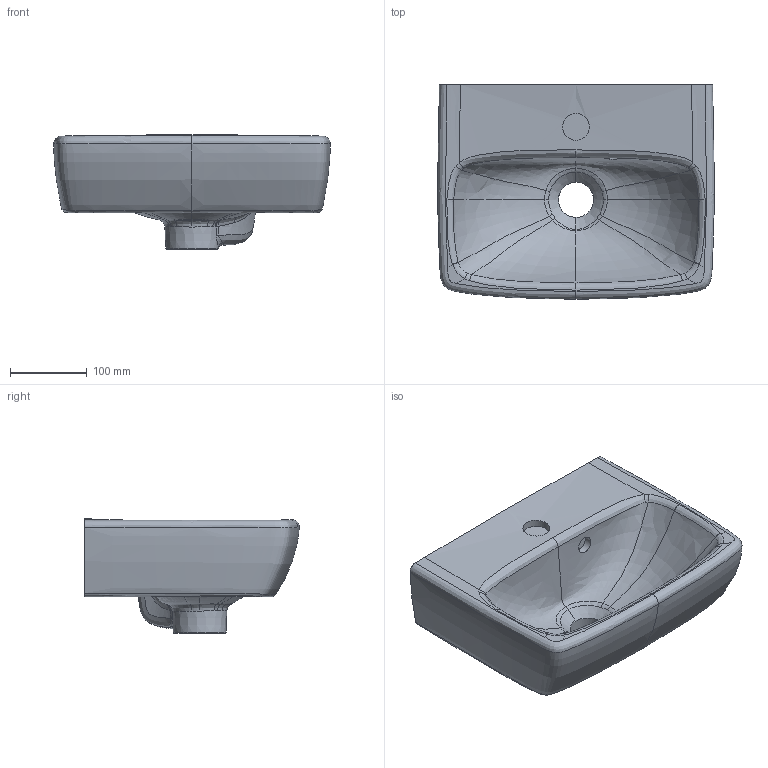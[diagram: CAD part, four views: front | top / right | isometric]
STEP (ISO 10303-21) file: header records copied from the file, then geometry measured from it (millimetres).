
FILE_DESCRIPTION(/* description */ (''),/* implementation_level */ '2;1');
FILE_NAME(/* name */ 'C:\Planerdaten\Export PLA\500.316.01.1\stp\500316.stp',/* time_stamp */ '2020-05-01T05:31:27-07:00',/* author */ ('JANAN'),/* organization */ (''),/* preprocessor_version */ 'ST-DEVELOPER v16.13',/* originating_system */ 'Autodesk Inventor 2018',/* authorisation */ '');
FILE_SCHEMA (('AUTOMOTIVE_DESIGN { 1 0 10303 214 3 1 1 }'));
Products named in the file (1): HWB Ge+SnvS B36 m/ÜLF m/HLo
Bounding box: 361.03 x 280 x 150 mm (x, y, z)
Volume: 6052994.6 mm3; surface area: 357293.9 mm2
Topology: 1 solids, 1 shells, 129 faces, 313 edges, 189 vertices
Faces by surface type: bspline 107, plane 12, cylinder 6, sphere 2, torus 1, cone 1
Full cylindrical faces by diameter (mm): 35 x1, 46 x1
Entity records: 43564 total; most frequent: CARTESIAN_POINT 41122, ORIENTED_EDGE 614, EDGE_CURVE 307, DIRECTION 259, VERTEX_POINT 187, B_SPLINE_CURVE_WITH_KNOTS 158, EDGE_LOOP 138, STYLED_ITEM 130
